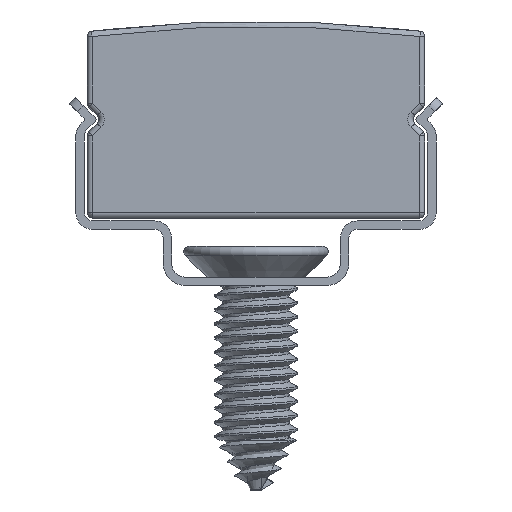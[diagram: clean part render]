
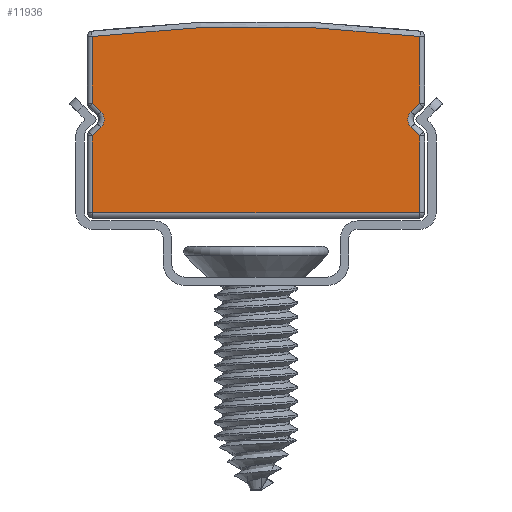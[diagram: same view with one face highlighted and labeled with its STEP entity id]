
A CAD part, front view. The second image highlights one B-rep face of the part: STEP entity #11936.
In plain terms, the highlighted planar face has unit normal (0, -1, 0).
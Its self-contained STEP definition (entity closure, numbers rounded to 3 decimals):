
#407=PLANE('',#13128);
#1075=FACE_OUTER_BOUND('',#1814,.T.);
#1814=EDGE_LOOP('',(#9579,#9580,#9581,#9582,#9583,#9584,#9585,#9586,#9587,
#9588,#9589,#9590,#9591,#9592,#9593,#9594,#9595,#9596,#9597,#9598));
#2427=CIRCLE('',#13061,47.246);
#2431=CIRCLE('',#13065,0.01);
#2434=CIRCLE('',#13069,0.01);
#2438=CIRCLE('',#13075,0.39);
#2442=CIRCLE('',#13080,0.01);
#2446=CIRCLE('',#13085,0.01);
#2450=CIRCLE('',#13090,0.01);
#2454=CIRCLE('',#13095,0.01);
#2458=CIRCLE('',#13101,0.39);
#2462=CIRCLE('',#13106,0.01);
#2465=CIRCLE('',#13110,0.01);
#3352=LINE('',#21877,#4356);
#3354=LINE('',#21897,#4358);
#3356=LINE('',#21909,#4360);
#3358=LINE('',#21929,#4362);
#3360=LINE('',#21949,#4364);
#3362=LINE('',#21969,#4366);
#3364=LINE('',#21989,#4368);
#3366=LINE('',#22001,#4370);
#3368=LINE('',#22021,#4372);
#4356=VECTOR('',#15616,10.);
#4358=VECTOR('',#15628,10.);
#4360=VECTOR('',#15642,10.);
#4362=VECTOR('',#15654,10.);
#4364=VECTOR('',#15666,10.);
#4366=VECTOR('',#15678,10.);
#4368=VECTOR('',#15690,10.);
#4370=VECTOR('',#15704,10.);
#4372=VECTOR('',#15716,10.);
#5431=VERTEX_POINT('',#21817);
#5432=VERTEX_POINT('',#21818);
#5436=VERTEX_POINT('',#21870);
#5438=VERTEX_POINT('',#21875);
#5440=VERTEX_POINT('',#21889);
#5442=VERTEX_POINT('',#21895);
#5444=VERTEX_POINT('',#21901);
#5446=VERTEX_POINT('',#21907);
#5448=VERTEX_POINT('',#21921);
#5450=VERTEX_POINT('',#21927);
#5452=VERTEX_POINT('',#21941);
#5454=VERTEX_POINT('',#21947);
#5456=VERTEX_POINT('',#21961);
#5458=VERTEX_POINT('',#21967);
#5460=VERTEX_POINT('',#21981);
#5462=VERTEX_POINT('',#21987);
#5464=VERTEX_POINT('',#21993);
#5466=VERTEX_POINT('',#21999);
#5468=VERTEX_POINT('',#22013);
#5470=VERTEX_POINT('',#22019);
#6859=EDGE_CURVE('',#5431,#5432,#2427,.T.);
#6865=EDGE_CURVE('',#5436,#5431,#2431,.T.);
#6867=EDGE_CURVE('',#5438,#5436,#3352,.T.);
#6870=EDGE_CURVE('',#5440,#5438,#2434,.T.);
#6873=EDGE_CURVE('',#5442,#5440,#3354,.T.);
#6876=EDGE_CURVE('',#5444,#5442,#2438,.T.);
#6879=EDGE_CURVE('',#5446,#5444,#3356,.T.);
#6882=EDGE_CURVE('',#5448,#5446,#2442,.T.);
#6885=EDGE_CURVE('',#5450,#5448,#3358,.T.);
#6888=EDGE_CURVE('',#5452,#5450,#2446,.T.);
#6891=EDGE_CURVE('',#5454,#5452,#3360,.T.);
#6894=EDGE_CURVE('',#5456,#5454,#2450,.T.);
#6897=EDGE_CURVE('',#5458,#5456,#3362,.T.);
#6900=EDGE_CURVE('',#5460,#5458,#2454,.T.);
#6903=EDGE_CURVE('',#5462,#5460,#3364,.T.);
#6906=EDGE_CURVE('',#5464,#5462,#2458,.T.);
#6909=EDGE_CURVE('',#5466,#5464,#3366,.T.);
#6912=EDGE_CURVE('',#5468,#5466,#2462,.T.);
#6915=EDGE_CURVE('',#5470,#5468,#3368,.T.);
#6917=EDGE_CURVE('',#5432,#5470,#2465,.T.);
#9579=ORIENTED_EDGE('',*,*,#6859,.F.);
#9580=ORIENTED_EDGE('',*,*,#6865,.F.);
#9581=ORIENTED_EDGE('',*,*,#6867,.F.);
#9582=ORIENTED_EDGE('',*,*,#6870,.F.);
#9583=ORIENTED_EDGE('',*,*,#6873,.F.);
#9584=ORIENTED_EDGE('',*,*,#6876,.F.);
#9585=ORIENTED_EDGE('',*,*,#6879,.F.);
#9586=ORIENTED_EDGE('',*,*,#6882,.F.);
#9587=ORIENTED_EDGE('',*,*,#6885,.F.);
#9588=ORIENTED_EDGE('',*,*,#6888,.F.);
#9589=ORIENTED_EDGE('',*,*,#6891,.F.);
#9590=ORIENTED_EDGE('',*,*,#6894,.F.);
#9591=ORIENTED_EDGE('',*,*,#6897,.F.);
#9592=ORIENTED_EDGE('',*,*,#6900,.F.);
#9593=ORIENTED_EDGE('',*,*,#6903,.F.);
#9594=ORIENTED_EDGE('',*,*,#6906,.F.);
#9595=ORIENTED_EDGE('',*,*,#6909,.F.);
#9596=ORIENTED_EDGE('',*,*,#6912,.F.);
#9597=ORIENTED_EDGE('',*,*,#6915,.F.);
#9598=ORIENTED_EDGE('',*,*,#6917,.F.);
#11936=ADVANCED_FACE('',(#1075),#407,.T.);
#13061=AXIS2_PLACEMENT_3D('',#21819,#15602,#15603);
#13065=AXIS2_PLACEMENT_3D('',#21872,#15610,#15611);
#13069=AXIS2_PLACEMENT_3D('',#21891,#15620,#15621);
#13075=AXIS2_PLACEMENT_3D('',#21903,#15634,#15635);
#13080=AXIS2_PLACEMENT_3D('',#21923,#15646,#15647);
#13085=AXIS2_PLACEMENT_3D('',#21943,#15658,#15659);
#13090=AXIS2_PLACEMENT_3D('',#21963,#15670,#15671);
#13095=AXIS2_PLACEMENT_3D('',#21983,#15682,#15683);
#13101=AXIS2_PLACEMENT_3D('',#21995,#15696,#15697);
#13106=AXIS2_PLACEMENT_3D('',#22015,#15708,#15709);
#13110=AXIS2_PLACEMENT_3D('',#22032,#15718,#15719);
#13128=AXIS2_PLACEMENT_3D('',#22076,#15769,#15770);
#15602=DIRECTION('center_axis',(0.,1.,0.));
#15603=DIRECTION('ref_axis',(0.,0.,1.));
#15610=DIRECTION('center_axis',(0.,1.,0.));
#15611=DIRECTION('ref_axis',(-0.819,0.,0.574));
#15616=DIRECTION('',(0.,0.,1.));
#15620=DIRECTION('center_axis',(0.,1.,0.));
#15621=DIRECTION('ref_axis',(-0.924,0.,-0.383));
#15628=DIRECTION('',(-0.707,0.,0.707));
#15634=DIRECTION('center_axis',(0.,-1.,0.));
#15635=DIRECTION('ref_axis',(1.,0.,0.));
#15642=DIRECTION('',(0.707,0.,0.707));
#15646=DIRECTION('center_axis',(0.,1.,0.));
#15647=DIRECTION('ref_axis',(-0.924,0.,0.383));
#15654=DIRECTION('',(0.,0.,1.));
#15658=DIRECTION('center_axis',(0.,1.,0.));
#15659=DIRECTION('ref_axis',(-0.707,0.,-0.707));
#15666=DIRECTION('',(-1.,0.,0.));
#15670=DIRECTION('center_axis',(0.,1.,0.));
#15671=DIRECTION('ref_axis',(0.707,0.,-0.707));
#15678=DIRECTION('',(0.,0.,-1.));
#15682=DIRECTION('center_axis',(0.,1.,0.));
#15683=DIRECTION('ref_axis',(0.924,0.,0.383));
#15690=DIRECTION('',(0.707,0.,-0.707));
#15696=DIRECTION('center_axis',(0.,-1.,0.));
#15697=DIRECTION('ref_axis',(-1.,0.,0.));
#15704=DIRECTION('',(-0.707,0.,-0.707));
#15708=DIRECTION('center_axis',(0.,1.,0.));
#15709=DIRECTION('ref_axis',(0.924,0.,-0.383));
#15716=DIRECTION('',(0.,0.,-1.));
#15718=DIRECTION('center_axis',(0.,1.,0.));
#15719=DIRECTION('ref_axis',(0.819,0.,0.574));
#15769=DIRECTION('center_axis',(0.,-1.,0.));
#15770=DIRECTION('ref_axis',(1.,0.,0.));
#21817=CARTESIAN_POINT('',(-5.809,-1.,6.452));
#21818=CARTESIAN_POINT('',(5.809,-1.,6.452));
#21819=CARTESIAN_POINT('Origin',(0.,-1.,-40.436));
#21870=CARTESIAN_POINT('',(-5.81,-1.,6.448));
#21872=CARTESIAN_POINT('Origin',(-5.8,-1.,6.448));
#21875=CARTESIAN_POINT('',(-5.81,-1.,4.083));
#21877=CARTESIAN_POINT('',(-5.81,-1.,4.974));
#21889=CARTESIAN_POINT('',(-5.807,-1.,4.076));
#21891=CARTESIAN_POINT('Origin',(-5.8,-1.,4.083));
#21895=CARTESIAN_POINT('',(-5.507,-1.,3.776));
#21897=CARTESIAN_POINT('',(-4.211,-1.,2.48));
#21901=CARTESIAN_POINT('',(-5.507,-1.,3.224));
#21903=CARTESIAN_POINT('Origin',(-5.783,-1.,3.5));
#21907=CARTESIAN_POINT('',(-5.807,-1.,2.924));
#21909=CARTESIAN_POINT('',(-4.061,-1.,4.67));
#21921=CARTESIAN_POINT('',(-5.81,-1.,2.917));
#21923=CARTESIAN_POINT('Origin',(-5.8,-1.,2.917));
#21927=CARTESIAN_POINT('',(-5.81,-1.,0.2));
#21929=CARTESIAN_POINT('',(-5.81,-1.,3.209));
#21941=CARTESIAN_POINT('',(-5.8,-1.,0.19));
#21943=CARTESIAN_POINT('Origin',(-5.8,-1.,0.2));
#21947=CARTESIAN_POINT('',(5.8,-1.,0.19));
#21949=CARTESIAN_POINT('',(-2.9,-1.,0.19));
#21961=CARTESIAN_POINT('',(5.81,-1.,0.2));
#21963=CARTESIAN_POINT('Origin',(5.8,-1.,0.2));
#21967=CARTESIAN_POINT('',(5.81,-1.,2.917));
#21969=CARTESIAN_POINT('',(5.81,-1.,1.85));
#21981=CARTESIAN_POINT('',(5.807,-1.,2.924));
#21983=CARTESIAN_POINT('Origin',(5.8,-1.,2.917));
#21987=CARTESIAN_POINT('',(5.507,-1.,3.224));
#21989=CARTESIAN_POINT('',(4.211,-1.,4.52));
#21993=CARTESIAN_POINT('',(5.507,-1.,3.776));
#21995=CARTESIAN_POINT('Origin',(5.783,-1.,3.5));
#21999=CARTESIAN_POINT('',(5.807,-1.,4.076));
#22001=CARTESIAN_POINT('',(4.061,-1.,2.33));
#22013=CARTESIAN_POINT('',(5.81,-1.,4.083));
#22015=CARTESIAN_POINT('Origin',(5.8,-1.,4.083));
#22019=CARTESIAN_POINT('',(5.81,-1.,6.448));
#22021=CARTESIAN_POINT('',(5.81,-1.,3.791));
#22032=CARTESIAN_POINT('Origin',(5.8,-1.,6.448));
#22076=CARTESIAN_POINT('Origin',(0.,-1.,3.5));
